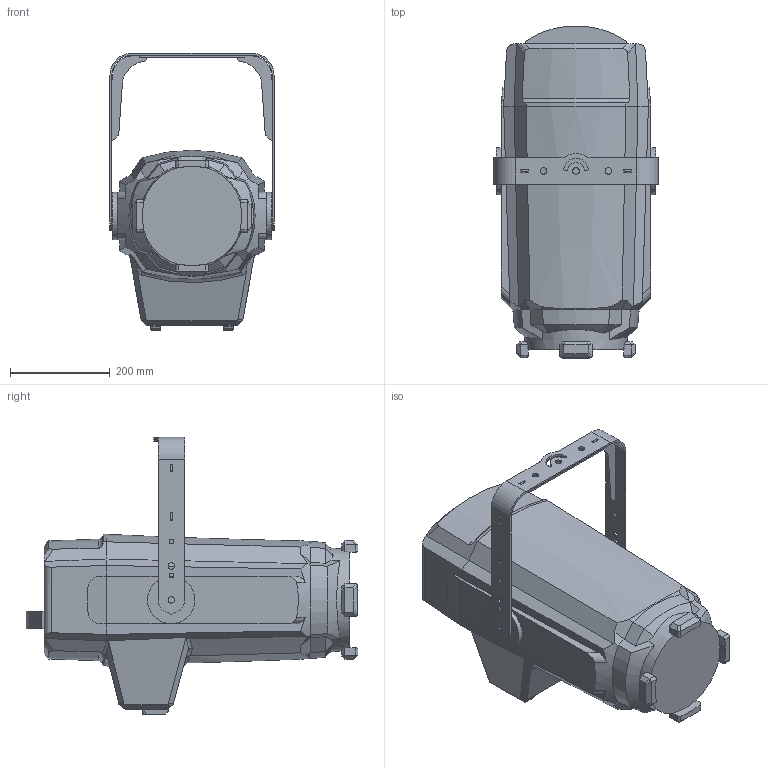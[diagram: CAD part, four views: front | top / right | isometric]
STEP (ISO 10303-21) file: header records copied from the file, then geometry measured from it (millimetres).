
FILE_DESCRIPTION(/* description */ ('Unknown'),/* implementation_level */ '2;1');
FILE_NAME(/* name */ '3D_Robin iT12 Profile',/* time_stamp */ '2024-03-06T11:54:19+01:00',/* author */ ('Unknown'),/* organization */ ('Unknown'),/* preprocessor_version */ 'ST-DEVELOPER v18.104',/* originating_system */ 'Solid Edge',/* authorisation */ 'Unknown');
FILE_SCHEMA (('AUTOMOTIVE_DESIGN {1 0 10303 214 3 1 1}'));
Length unit declared in the file: millimetre
Products named in the file (6): Sestava4; 3D_Robin iT12 Profile; 11031148 Z醰靤 iT12 sva鴈n齙oa_0; 11018796 Z嫛鮀 iT12; 11018822 Výztuha závìsu; 11019003 Podložka závìsu
Assembly tree (6 placements, depth 3):
  Sestava4
    3D_Robin iT12 Profile
    11031148 Z醰靤 iT12 sva鴈n齙oa_0
      11018796 Z嫛鮀 iT12
      11018822 Výztuha závìsu  x2
      11019003 Podložka závìsu
Bounding box: 329 x 664.99 x 556 mm (x, y, z)
Volume: 39794052.1 mm3; surface area: 901240.7 mm2
Topology: 5 solids, 5 shells, 437 faces, 1228 edges, 802 vertices
Faces by surface type: plane 289, cylinder 115, cone 21, bspline 10, torus 2
Full cylindrical faces by diameter (mm): 12.9 x4, 13 x6, 95 x2
Entity records: 13425 total; most frequent: CARTESIAN_POINT 2953, ORIENTED_EDGE 2220, DIRECTION 2065, EDGE_CURVE 1110, VERTEX_POINT 730, AXIS2_PLACEMENT_3D 690, LINE 685, VECTOR 685
